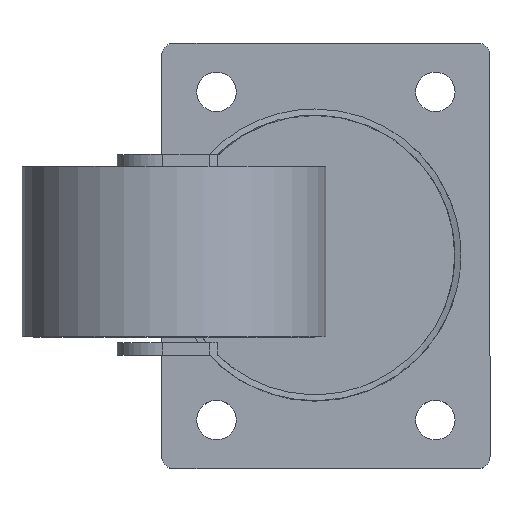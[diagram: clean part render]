
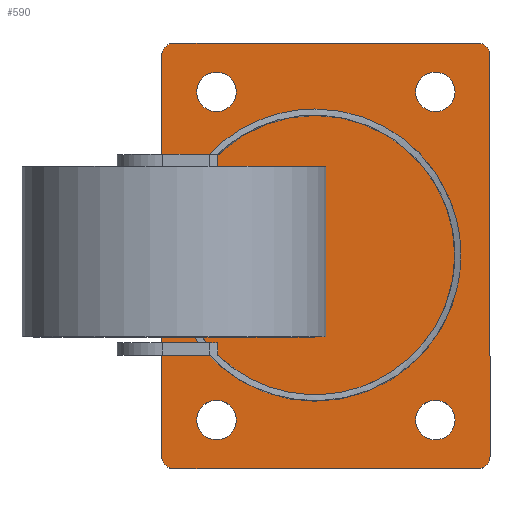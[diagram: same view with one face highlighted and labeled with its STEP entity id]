
A CAD part, top view. The second image highlights one B-rep face of the part: STEP entity #590.
In plain terms, the highlighted planar face has unit normal (0, 0, 1).
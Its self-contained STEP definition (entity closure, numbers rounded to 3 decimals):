
#88=CARTESIAN_POINT('',(42.382,-53.026,3.));
#89=VERTEX_POINT('',#88);
#90=CARTESIAN_POINT('',(40.382,-55.026,3.));
#91=VERTEX_POINT('',#90);
#92=CARTESIAN_POINT('',(40.382,-53.026,3.));
#93=DIRECTION('',(0.0,0.0,-1.));
#94=DIRECTION('',(0.707,-0.707,0.0));
#95=AXIS2_PLACEMENT_3D('',#92,#93,#94);
#96=CIRCLE('',#95,2.);
#97=EDGE_CURVE('',#89,#91,#96,.T.);
#241=CARTESIAN_POINT('',(-9.618,-55.026,3.));
#242=VERTEX_POINT('',#241);
#243=CARTESIAN_POINT('',(40.382,-55.026,3.));
#244=DIRECTION('',(-1.0,0.0,0.0));
#245=VECTOR('',#244,50.0);
#246=LINE('',#243,#245);
#247=EDGE_CURVE('',#91,#242,#246,.T.);
#264=CARTESIAN_POINT('',(-11.618,-53.026,3.));
#265=VERTEX_POINT('',#264);
#266=CARTESIAN_POINT('',(-9.618,-53.026,3.));
#267=DIRECTION('',(0.0,0.0,-1.0));
#268=DIRECTION('',(-0.707,-0.707,0.0));
#269=AXIS2_PLACEMENT_3D('',#266,#267,#268);
#270=CIRCLE('',#269,2.);
#271=EDGE_CURVE('',#242,#265,#270,.T.);
#289=CARTESIAN_POINT('',(40.382,14.974,3.));
#290=VERTEX_POINT('',#289);
#291=CARTESIAN_POINT('',(42.382,12.974,3.));
#292=VERTEX_POINT('',#291);
#293=CARTESIAN_POINT('',(40.382,12.974,3.));
#294=DIRECTION('',(0.0,0.0,-1.0));
#295=DIRECTION('',(0.707,0.707,0.0));
#296=AXIS2_PLACEMENT_3D('',#293,#294,#295);
#297=CIRCLE('',#296,2.);
#298=EDGE_CURVE('',#290,#292,#297,.T.);
#323=CARTESIAN_POINT('',(-9.618,14.974,3.));
#324=VERTEX_POINT('',#323);
#331=CARTESIAN_POINT('',(-9.618,14.974,3.));
#332=DIRECTION('',(1.0,0.0,0.0));
#333=VECTOR('',#332,50.);
#334=LINE('',#331,#333);
#335=EDGE_CURVE('',#324,#290,#334,.T.);
#345=CARTESIAN_POINT('',(-11.618,12.974,3.));
#346=VERTEX_POINT('',#345);
#347=CARTESIAN_POINT('',(-9.618,12.974,3.));
#348=DIRECTION('',(0.0,0.0,-1.0));
#349=DIRECTION('',(-0.707,0.707,0.0));
#350=AXIS2_PLACEMENT_3D('',#347,#348,#349);
#351=CIRCLE('',#350,2.);
#352=EDGE_CURVE('',#346,#324,#351,.T.);
#394=CARTESIAN_POINT('',(36.632,-47.026,3.));
#395=VERTEX_POINT('',#394);
#396=CARTESIAN_POINT('',(33.382,-47.026,3.));
#397=DIRECTION('',(0.0,0.0,-1.0));
#398=DIRECTION('',(1.0,0.0,0.0));
#399=AXIS2_PLACEMENT_3D('',#396,#397,#398);
#400=CIRCLE('',#399,3.25);
#401=EDGE_CURVE('',#395,#395,#400,.T.);
#435=CARTESIAN_POINT('',(0.632,6.974,3.));
#436=VERTEX_POINT('',#435);
#437=CARTESIAN_POINT('',(-2.618,6.974,3.));
#438=DIRECTION('',(0.0,0.0,-1.0));
#439=DIRECTION('',(1.0,0.0,0.0));
#440=AXIS2_PLACEMENT_3D('',#437,#438,#439);
#441=CIRCLE('',#440,3.25);
#442=EDGE_CURVE('',#436,#436,#441,.T.);
#476=CARTESIAN_POINT('',(36.632,6.974,3.));
#477=VERTEX_POINT('',#476);
#478=CARTESIAN_POINT('',(33.382,6.974,3.));
#479=DIRECTION('',(0.0,0.0,-1.0));
#480=DIRECTION('',(1.0,0.0,0.0));
#481=AXIS2_PLACEMENT_3D('',#478,#479,#480);
#482=CIRCLE('',#481,3.25);
#483=EDGE_CURVE('',#477,#477,#482,.T.);
#517=CARTESIAN_POINT('',(0.632,-47.026,3.));
#518=VERTEX_POINT('',#517);
#519=CARTESIAN_POINT('',(-2.618,-47.026,3.));
#520=DIRECTION('',(0.0,0.0,-1.0));
#521=DIRECTION('',(1.0,0.0,0.0));
#522=AXIS2_PLACEMENT_3D('',#519,#520,#521);
#523=CIRCLE('',#522,3.25);
#524=EDGE_CURVE('',#518,#518,#523,.T.);
#537=CARTESIAN_POINT('',(42.382,12.974,3.));
#538=DIRECTION('',(0.0,-1.0,0.0));
#539=VECTOR('',#538,66.0);
#540=LINE('',#537,#539);
#541=EDGE_CURVE('',#292,#89,#540,.T.);
#552=CARTESIAN_POINT('',(-11.618,-53.026,3.));
#553=DIRECTION('',(0.0,1.0,0.0));
#554=VECTOR('',#553,66.0);
#555=LINE('',#552,#554);
#556=EDGE_CURVE('',#265,#346,#555,.T.);
#563=CARTESIAN_POINT('',(15.382,-20.026,3.));
#564=DIRECTION('',(0.0,0.0,1.0));
#565=DIRECTION('',(1.0,0.0,0.0));
#566=AXIS2_PLACEMENT_3D('',#563,#564,#565);
#567=PLANE('',#566);
#568=ORIENTED_EDGE('',*,*,#97,.F.);
#569=ORIENTED_EDGE('',*,*,#541,.F.);
#570=ORIENTED_EDGE('',*,*,#298,.F.);
#571=ORIENTED_EDGE('',*,*,#335,.F.);
#572=ORIENTED_EDGE('',*,*,#352,.F.);
#573=ORIENTED_EDGE('',*,*,#556,.F.);
#574=ORIENTED_EDGE('',*,*,#271,.F.);
#575=ORIENTED_EDGE('',*,*,#247,.F.);
#576=EDGE_LOOP('',(#568,#569,#570,#571,#572,#573,#574,#575));
#577=FACE_OUTER_BOUND('',#576,.T.);
#578=ORIENTED_EDGE('',*,*,#401,.T.);
#579=EDGE_LOOP('',(#578));
#580=FACE_BOUND('',#579,.T.);
#581=ORIENTED_EDGE('',*,*,#442,.T.);
#582=EDGE_LOOP('',(#581));
#583=FACE_BOUND('',#582,.T.);
#584=ORIENTED_EDGE('',*,*,#483,.T.);
#585=EDGE_LOOP('',(#584));
#586=FACE_BOUND('',#585,.T.);
#587=ORIENTED_EDGE('',*,*,#524,.T.);
#588=EDGE_LOOP('',(#587));
#589=FACE_BOUND('',#588,.T.);
#590=ADVANCED_FACE('',(#577,#580,#583,#586,#589),#567,.T.);
